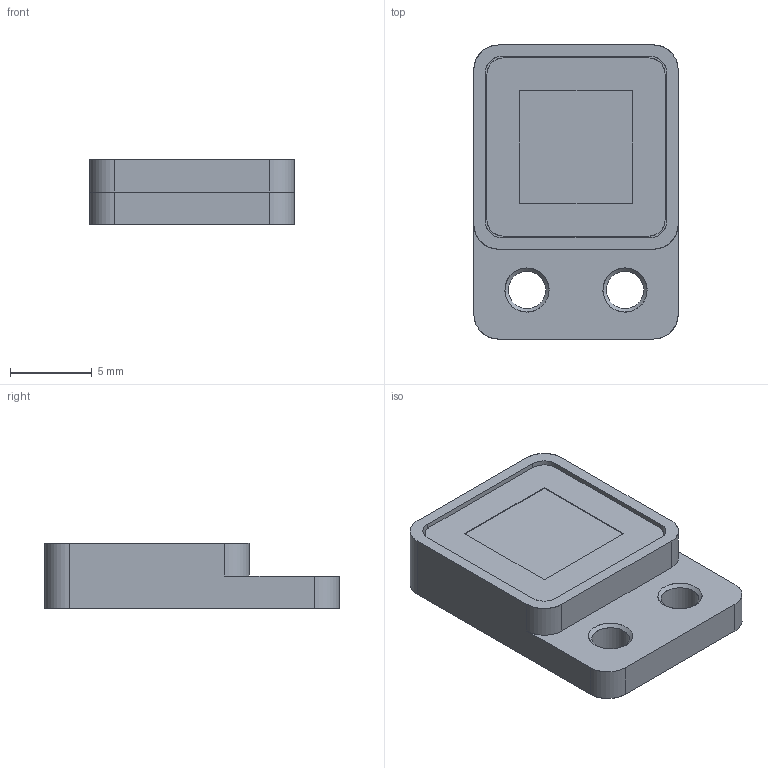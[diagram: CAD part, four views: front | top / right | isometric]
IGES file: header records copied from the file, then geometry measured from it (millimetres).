
Global section: file name: E:\lem\3DCAD_MTKS_7x7M5.igs; native system: NX V8.5; preprocessor: SIEMENS PLM Software NX 8.5; date: 20170607.115338; units: millimetre
Bounding box: 12.5 x 18 x 4 mm (x, y, z)
Surface area: 720.7 mm2 (no closed solid volume)
Topology: 0 solids, 0 shells, 41 faces, 272 edges, 268 vertices
Faces by surface type: bspline 41
